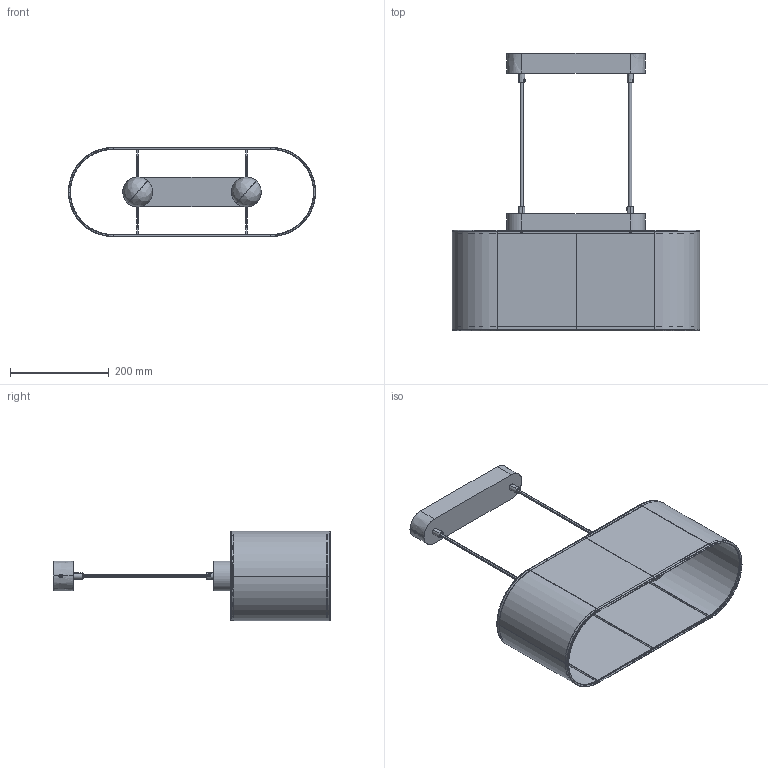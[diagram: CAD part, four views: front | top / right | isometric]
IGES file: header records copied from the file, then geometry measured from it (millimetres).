
Start section: SolidWorks IGES file using analytic representation for surfaces
Global section: file name: E:\3D lampy\Boat\Boat_6307,6310,6623.IGS; native system: SolidWorks 2017; preprocessor: SolidWorks 2017; author: joanna.pastusinska; date: 180614.093635; units: millimetre
Bounding box: 500.67 x 562.57 x 180.67 mm (x, y, z)
Surface area: 868821.2 mm2 (no closed solid volume)
Topology: 0 solids, 0 shells, 796 faces, 13594 edges, 13554 vertices
Faces by surface type: bspline 399, revolution 397
